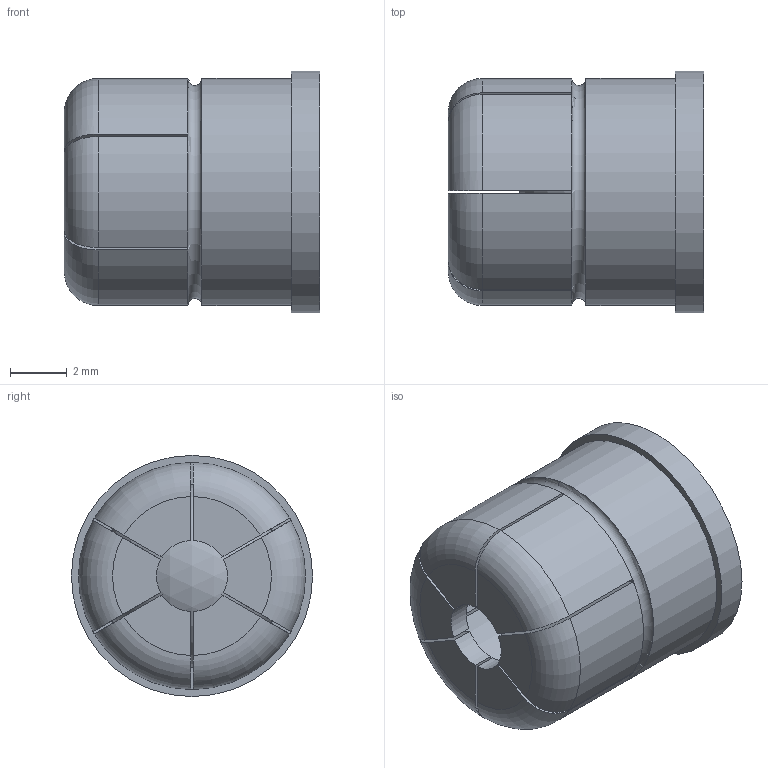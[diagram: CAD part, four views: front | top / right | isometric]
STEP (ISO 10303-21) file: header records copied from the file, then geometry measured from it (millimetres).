
FILE_DESCRIPTION( ( 'STEP AP203' ), '1' );
FILE_NAME( 'C:/Temp/Ganter_Step_05_03_2020/data/3_1/gn_614_5/Spring plunger GN 614.5-8-KD (activated).stp', '2020-03-12T09:12:49', ( 'License CC BY-ND 4.0' ), ( 'CADENAS' ), ' ', 'PARTsolutions', ' ' );
FILE_SCHEMA( ( 'CONFIG_CONTROL_DESIGN' ) );
Length unit declared in the file: millimetre
Products named in the file (1): _Spring plunger GN 614.5-8-KD (activated)
Bounding box: 9 x 8.5 x 8.5 mm (x, y, z)
Volume: 315.6 mm3; surface area: 653 mm2
Topology: 1 solids, 1 shells, 63 faces, 165 edges, 106 vertices
Faces by surface type: plane 32, cylinder 16, torus 13, sphere 2
Full cylindrical faces by diameter (mm): 6.48 x2, 8 x1, 8.5 x1
Entity records: 2054 total; most frequent: CARTESIAN_POINT 490, DIRECTION 322, ORIENTED_EDGE 314, EDGE_CURVE 157, AXIS2_PLACEMENT_3D 125, VERTEX_POINT 103, LINE 72, VECTOR 72
